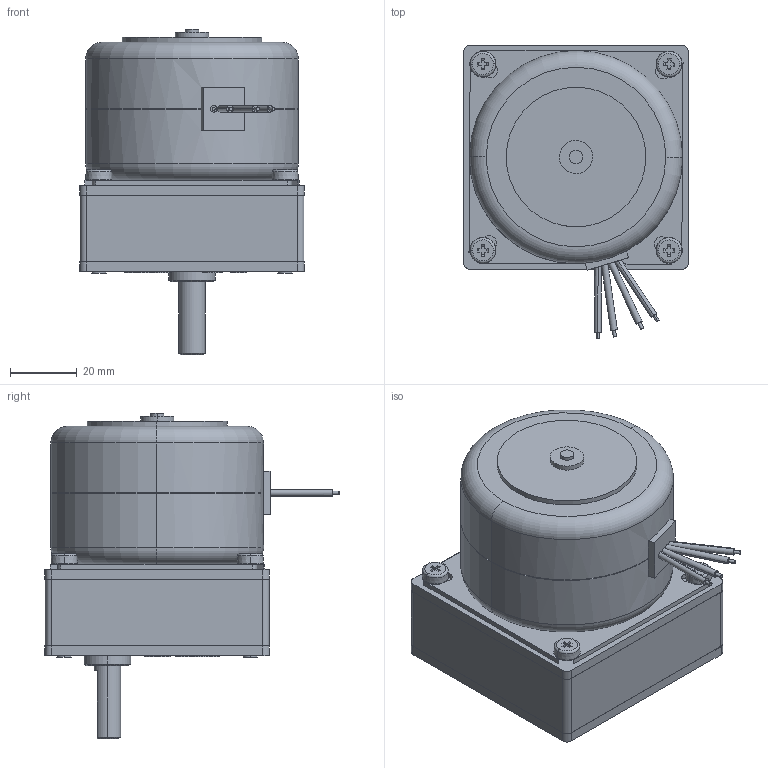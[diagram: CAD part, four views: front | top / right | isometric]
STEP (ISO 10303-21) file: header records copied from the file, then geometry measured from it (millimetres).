
FILE_DESCRIPTION (( 'STEP AP214' ), '1' );
FILE_NAME ('64S032L-SGP67S.STEP', '2015-08-04T14:18:41', ( '' ), ( '' ), 'SwSTEP 2.0', 'SolidWorks 2014', '' );
FILE_SCHEMA (( 'AUTOMOTIVE_DESIGN' ));
Length unit declared in the file: millimetre
Products named in the file (4): Tc_cruci_M4x8; 64S032L; SGP50; 64S032L-SGP67S
Assembly tree (6 placements, depth 2):
  64S032L-SGP67S
    SGP50
    64S032L
    Tc_cruci_M4x8  x4
Bounding box: 67.5 x 88.42 x 98 mm (x, y, z)
Volume: 259743.2 mm3; surface area: 38271 mm2
Topology: 6 solids, 10 shells, 303 faces, 701 edges, 457 vertices
Faces by surface type: plane 143, cylinder 127, torus 20, cone 13
Entity records: 6716 total; most frequent: DIRECTION 1182, CARTESIAN_POINT 1086, ORIENTED_EDGE 994, EDGE_CURVE 497, AXIS2_PLACEMENT_3D 469, VERTEX_POINT 325, EDGE_LOOP 260, LINE 244
